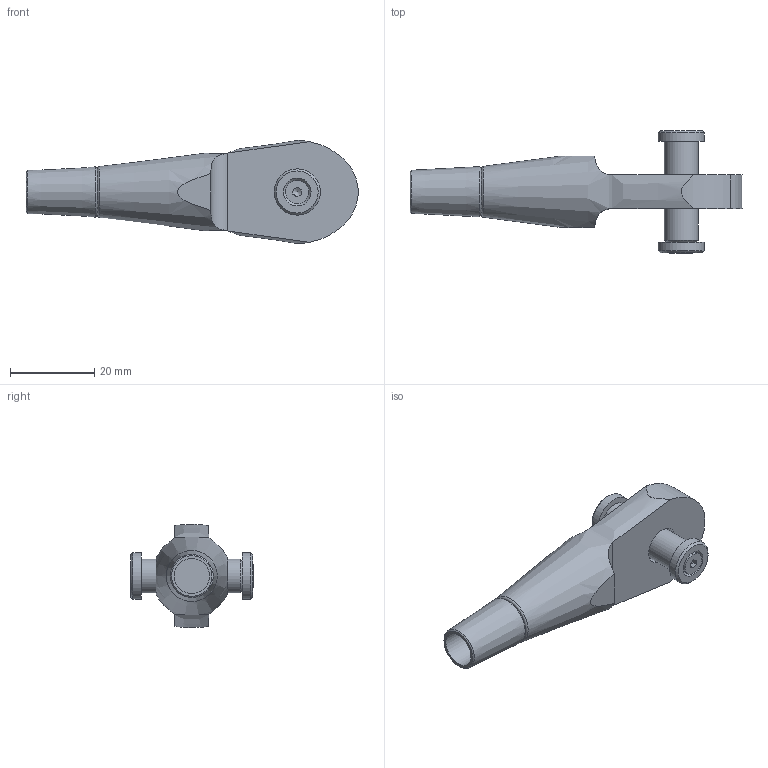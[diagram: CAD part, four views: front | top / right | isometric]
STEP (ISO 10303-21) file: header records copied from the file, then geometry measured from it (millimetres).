
FILE_DESCRIPTION(/* description */ (''),/* implementation_level */ '2;1');
FILE_NAME(/* name */ 'G:\Engineering\700 CAD\Internet-PX-1-step-igs-dxf\520-OES-Arbeitsdateien\520-008-OES.stp',/* time_stamp */ '2020-06-26T10:07:17+02:00',/* author */ ('schwarz'),/* organization */ (''),/* preprocessor_version */ 'ST-DEVELOPER v16.1',/* originating_system */ 'Autodesk Inventor 2016',/* authorisation */ '');
FILE_SCHEMA (('AUTOMOTIVE_DESIGN { 1 0 10303 214 3 1 1 }','AP242_MANAGED_MODEL_BASED_3D_ENGINEERING_MIM_LF { 1 0 10303 442 1 1 4 }'));
Length unit declared in the file: centimetre
Products named in the file (1): 520-008-OES-KMU-Kunde
Bounding box: 78.96 x 29.11 x 24.51 mm (x, y, z)
Volume: 13066.3 mm3; surface area: 5765.6 mm2
Topology: 2 solids, 3 shells, 49 faces, 108 edges, 70 vertices
Faces by surface type: plane 22, cylinder 14, cone 12, torus 1
Full cylindrical faces by diameter (mm): 2.459 x1, 3 x1, 3.5 x1, 5.54 x1, 8 x1, 8.4 x1, 9 x1, 11 x2
Entity records: 1335 total; most frequent: CARTESIAN_POINT 304, DIRECTION 198, ORIENTED_EDGE 158, AXIS2_PLACEMENT_3D 89, EDGE_CURVE 79, EDGE_LOOP 78, VERTEX_POINT 63, STYLED_ITEM 51
